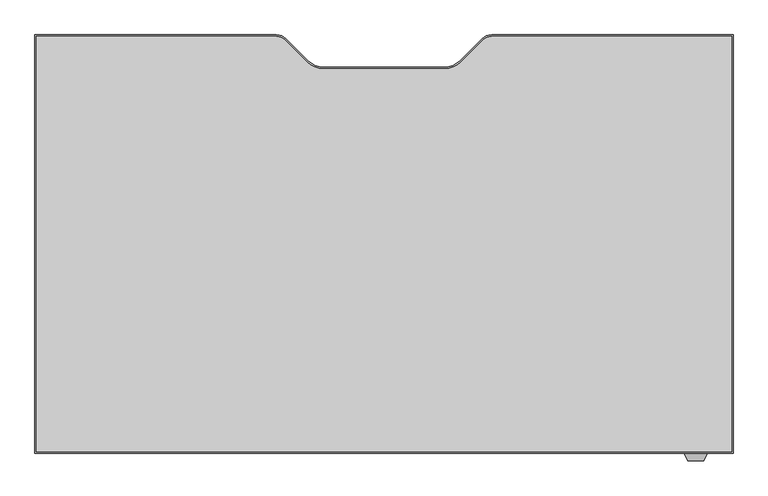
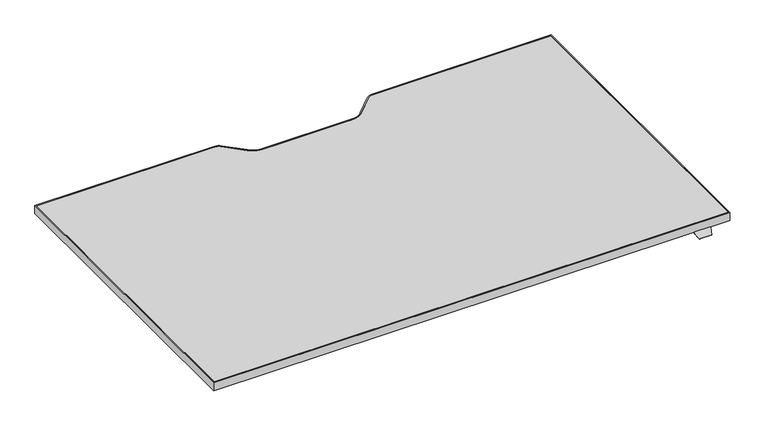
"""IFC4 building model written with IfcOpenShell, lengths in millimetres: furniture geometry, Steelcase Turnstone - Bivi - Height Adjustable Desk - T Base : 36D x 60W."""

from ifc_helpers import new_model, si_unit, point, frame, frame_2d, origin, place, context, project, spatial, polyline, circle_curve, trimmed, segment, composite_curve, outline, extrude, faceted_brep, source, transform, mapped, element, save


def furniture_acebf0ee(model_context):
    return source(origin(), model_context, "Body", "SolidModel", [
        faceted_brep([(316.0177913, -554.7301693, 760.9984131), (316.0177913, -552.2074599, 760.9984131), (316.0177913, -552.2074599, 762.4), (316.0177913, -554.7490853, 762.4), (316.0177913, -556.0594921, 761.3004382), (316.0177913, -556.0594921, 759.8829789), (266.4448135, -554.7490853, 762.4), (266.4448135, -552.2074599, 762.4), (266.4448135, -552.2074599, 760.9984131), (266.4448135, -554.7301693, 760.9984131), (266.4448135, -556.0594921, 759.8829789), (266.4448135, -556.0594921, 761.3004382), (309.0358363, -571.0323429, 748.7367246), (273.4267685, -571.0323429, 748.7367246), (273.0673686, -570.2616074, 747.9659891), (309.3952362, -570.2616074, 747.9659891)], [[[0, 1, 2, 3, 4, 5]], [[6, 7, 8, 9, 10, 11]], [[12, 13, 14, 15]], [[9, 0, 5, 15, 14, 10]], [[1, 0, 9, 8]], [[2, 1, 8, 7]], [[3, 2, 7, 6]], [[3, 6, 11, 13, 12, 4]], [[5, 4, 12, 15]], [[11, 10, 14, 13]]]),
        extrude(outline(composite_curve([segment(polyline([(-1151.2285908, 359.6509147), (-623.9070191, 359.6509147)]), True, "CONTINUOUS"), segment(trimmed(circle_curve(frame_2d((-623.9070191, 330.9489147)), 28.702), [point((-623.9070191, 359.6509147))], [point((-603.6116402, 351.2442935))], False, "CARTESIAN"), True, "CONTINUOUS"), segment(polyline([(-603.6116402, 351.2442935), (-556.0972358, 303.7298891)]), True, "CONTINUOUS"), segment(trimmed(circle_curve(frame_2d((-520.1762113, 339.6509136)), 50.8), [point((-556.0972358, 303.7298891))], [point((-520.1762113, 288.8509136))], True, "CARTESIAN"), True, "CONTINUOUS"), segment(polyline([(-520.1762113, 288.8509136), (-258.2809703, 288.8509136)]), True, "CONTINUOUS"), segment(trimmed(circle_curve(frame_2d((-258.2809703, 339.6509136)), 50.8), [point((-258.2809703, 288.8509136))], [point((-222.3599458, 303.7298891))], True, "CARTESIAN"), True, "CONTINUOUS"), segment(polyline([(-222.3599458, 303.7298891), (-174.8455414, 351.2442935)]), True, "CONTINUOUS"), segment(trimmed(circle_curve(frame_2d((-154.5501625, 330.9489147)), 28.702), [point((-174.8455414, 351.2442935))], [point((-154.5501625, 359.6509147))], False, "CARTESIAN"), True, "CONTINUOUS"), segment(polyline([(-154.5501625, 359.6509147), (372.7714092, 359.6509147), (372.7714092, -554.7490853), (-1151.2285908, -554.7490853), (-1151.2285908, 359.6509147)]), True, "CONTINUOUS")], self_intersect=False), holes=[composite_curve([segment(polyline([(-1147.8487543, 356.3489147), (-1147.8487543, -551.4470853), (369.4694092, -551.4470853), (369.4694092, 356.3489147), (-154.5501625, 356.3489147)]), True, "CONTINUOUS"), segment(trimmed(circle_curve(frame_2d((-154.5501625, 330.9489147)), 25.4), [point((-154.5501625, 356.3489147))], [point((-172.5106748, 348.9094269))], True, "CARTESIAN"), True, "CONTINUOUS"), segment(polyline([(-172.5106748, 348.9094269), (-220.527602, 300.8924998)]), True, "CONTINUOUS"), segment(trimmed(circle_curve(frame_2d((-256.4486265, 336.8135242)), 50.8), [point((-220.527602, 300.8924998))], [point((-256.4486265, 286.0135242))], False, "CARTESIAN"), True, "CONTINUOUS"), segment(polyline([(-256.4486265, 286.0135242), (-389.2285908, 286.0135242), (-522.0085552, 286.0135242)]), True, "CONTINUOUS"), segment(trimmed(circle_curve(frame_2d((-522.0085552, 336.8135242)), 50.8), [point((-522.0085552, 286.0135242))], [point((-557.9295796, 300.8924998))], False, "CARTESIAN"), True, "CONTINUOUS"), segment(polyline([(-557.9295796, 300.8924998), (-605.9465068, 348.9094269)]), True, "CONTINUOUS"), segment(trimmed(circle_curve(frame_2d((-623.9070191, 330.9489147)), 25.4), [point((-605.9465068, 348.9094269))], [point((-623.9070191, 356.3489147))], True, "CARTESIAN"), True, "CONTINUOUS"), segment(polyline([(-623.9070191, 356.3489147), (-1147.8487543, 356.3489147)]), True, "CONTINUOUS")], self_intersect=False)]), frame((0.0, 0.0, 762.4), z_axis=(0.0, 0.0, 1.0), x_axis=(1.0, 0.0, 0.0)), (0.0, 0.0, 1.0), 25.0),
        extrude(outline(composite_curve([segment(polyline([(-1147.8487543, 356.3489147), (-623.9070191, 356.3489147)]), True, "CONTINUOUS"), segment(trimmed(circle_curve(frame_2d((-623.9070191, 330.9489147)), 25.4), [point((-623.9070191, 356.3489147))], [point((-605.9465068, 348.9094269))], False, "CARTESIAN"), True, "CONTINUOUS"), segment(polyline([(-605.9465068, 348.9094269), (-557.9295796, 300.8924998)]), True, "CONTINUOUS"), segment(trimmed(circle_curve(frame_2d((-522.0085552, 336.8135242)), 50.8), [point((-557.9295796, 300.8924998))], [point((-522.0085552, 286.0135242))], True, "CARTESIAN"), True, "CONTINUOUS"), segment(polyline([(-522.0085552, 286.0135242), (-389.2285908, 286.0135242), (-256.4486265, 286.0135242)]), True, "CONTINUOUS"), segment(trimmed(circle_curve(frame_2d((-256.4486265, 336.8135242)), 50.8), [point((-256.4486265, 286.0135242))], [point((-220.527602, 300.8924998))], True, "CARTESIAN"), True, "CONTINUOUS"), segment(polyline([(-220.527602, 300.8924998), (-172.5106748, 348.9094269)]), True, "CONTINUOUS"), segment(trimmed(circle_curve(frame_2d((-154.5501625, 330.9489147)), 25.4), [point((-172.5106748, 348.9094269))], [point((-154.5501625, 356.3489147))], False, "CARTESIAN"), True, "CONTINUOUS"), segment(polyline([(-154.5501625, 356.3489147), (369.4694092, 356.3489147), (369.4694092, -551.4470853), (-1147.8487543, -551.4470853), (-1147.8487543, 356.3489147)]), True, "CONTINUOUS")], self_intersect=False)), frame((0.0, 0.0, 762.4), z_axis=(0.0, 0.0, 1.0), x_axis=(1.0, 0.0, 0.0)), (0.0, 0.0, 1.0), 25.0),
    ])


if __name__ == "__main__":
    model = new_model("IFC4")
    model_context = context("Model", 3, world=origin())
    ifc_project = project(units=[si_unit("LENGTHUNIT", "METRE", prefix="MILLI")], contexts=[model_context])
    site = spatial("IfcSite", under=ifc_project)
    building = spatial("IfcBuilding", under=site)
    placement = place(None, origin())
    furniture_shape = furniture_acebf0ee(model_context)
    element("IfcFurniture", 1, ObjectType="Steelcase Turnstone - Bivi - Height Adjustable Desk - T Base : 36D x 60W", at=placement, inside=building, context=model_context, shape_type="MappedRepresentation", body=[
        mapped(furniture_shape, transform((0.0, 0.0, 0.0), x_axis=(1.0, 0.0, 0.0), y_axis=(0.0, 1.0, 0.0), z_axis=(0.0, 0.0, 1.0))),
    ])
    save(model, "model.ifc")
